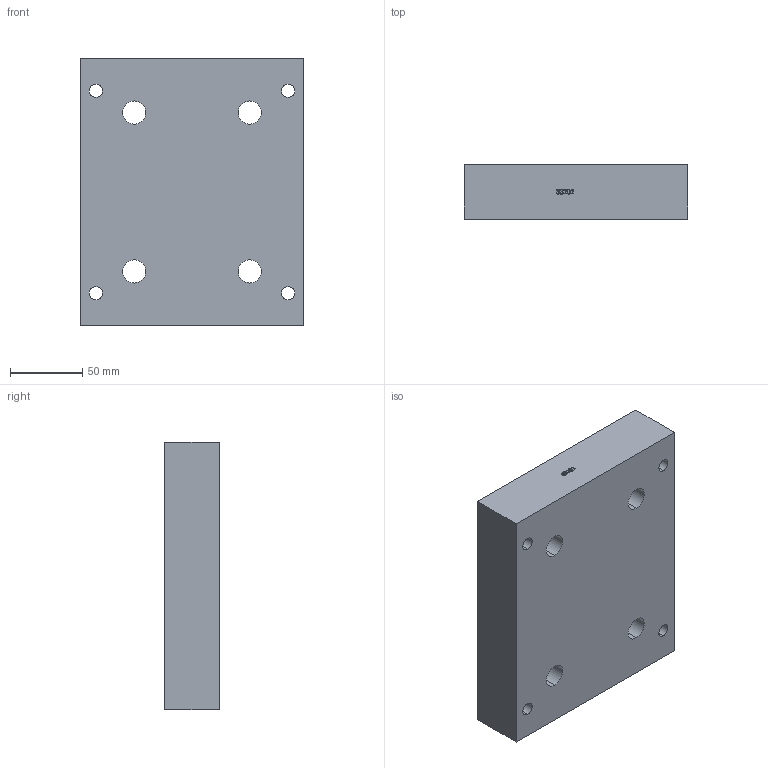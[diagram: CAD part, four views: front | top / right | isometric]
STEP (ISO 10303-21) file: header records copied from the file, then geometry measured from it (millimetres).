
FILE_DESCRIPTION (( 'STEP AP214' ), '1' );
FILE_NAME ('33202 QC TOOL POST MOUNTING PLATE.STEP', '2014-07-21T16:41:48', ( '' ), ( '' ), 'SwSTEP 2.0', 'SolidWorks 2012', '' );
FILE_SCHEMA (( 'AUTOMOTIVE_DESIGN' ));
Length unit declared in the file: millimetre
Products named in the file (1): 33202 QC TOOL POST MOUNTING PLATE
Bounding box: 155 x 38 x 185 mm (x, y, z)
Volume: 1045634.3 mm3; surface area: 93475.5 mm2
Topology: 1 solids, 1 shells, 115 faces, 301 edges, 198 vertices
Faces by surface type: bspline 49, plane 34, cylinder 24, cone 8
Entity records: 7293 total; most frequent: CARTESIAN_POINT 3776, ORIENTED_EDGE 602, DIRECTION 393, EDGE_CURVE 301, VERTEX_POINT 198, LINE 147, VECTOR 147, EDGE_LOOP 141
